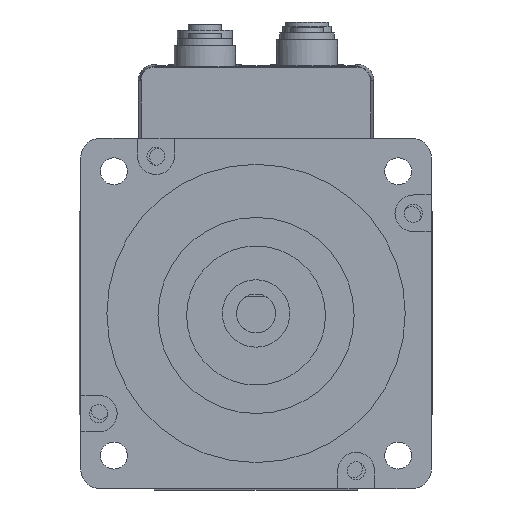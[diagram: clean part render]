
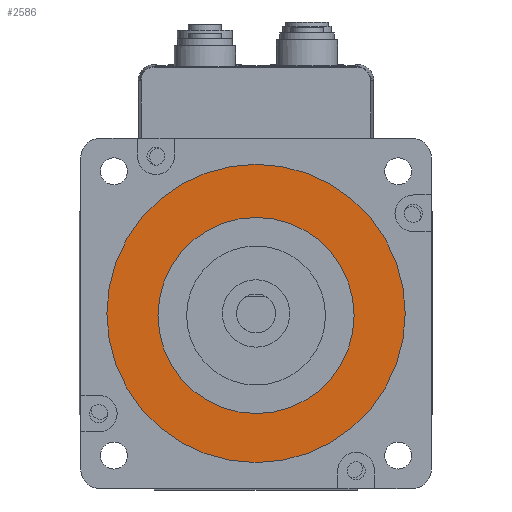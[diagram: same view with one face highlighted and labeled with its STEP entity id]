
A CAD part, front view. The second image highlights one B-rep face of the part: STEP entity #2586.
In plain terms, the highlighted planar face has unit normal (0, -1, 0).
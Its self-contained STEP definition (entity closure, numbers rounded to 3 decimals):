
#2586 = ADVANCED_FACE( '', ( #5592, #5593 ), #5594, .F. );
#5592 = FACE_OUTER_BOUND( '', #9413, .T. );
#5593 = FACE_BOUND( '', #9414, .T. );
#5594 = PLANE( '', #9415 );
#9413 = EDGE_LOOP( '', ( #16787 ) );
#9414 = EDGE_LOOP( '', ( #16788 ) );
#9415 = AXIS2_PLACEMENT_3D( '', #16789, #16790, #16791 );
#16787 = ORIENTED_EDGE( '', *, *, #22422, .F. );
#16788 = ORIENTED_EDGE( '', *, *, #22423, .T. );
#16789 = CARTESIAN_POINT( '', ( 46.966, -2., 64.064 ) );
#16790 = DIRECTION( '', ( 0., 1., 0. ) );
#16791 = DIRECTION( '', ( 1., 0., 0. ) );
#22422 = EDGE_CURVE( '', #27361, #27361, #27362, .T. );
#22423 = EDGE_CURVE( '', #27363, #27363, #27364, .T. );
#27361 = VERTEX_POINT( '', #34089 );
#27362 = CIRCLE( '', #34090, 36.5 );
#27363 = VERTEX_POINT( '', #34091 );
#27364 = CIRCLE( '', #34092, 24. );
#34089 = CARTESIAN_POINT( '', ( 46.966, -2., 100.564 ) );
#34090 = AXIS2_PLACEMENT_3D( '', #38631, #38632, #38633 );
#34091 = CARTESIAN_POINT( '', ( 70.966, -2., 63.564 ) );
#34092 = AXIS2_PLACEMENT_3D( '', #38634, #38635, #38636 );
#38631 = CARTESIAN_POINT( '', ( 46.966, -2., 64.064 ) );
#38632 = DIRECTION( '', ( 0., 1., 0. ) );
#38633 = DIRECTION( '', ( 0., 0., 1. ) );
#38634 = CARTESIAN_POINT( '', ( 46.966, -2., 63.564 ) );
#38635 = DIRECTION( '', ( 0., 1., 0. ) );
#38636 = DIRECTION( '', ( 1., 0., 0. ) );
